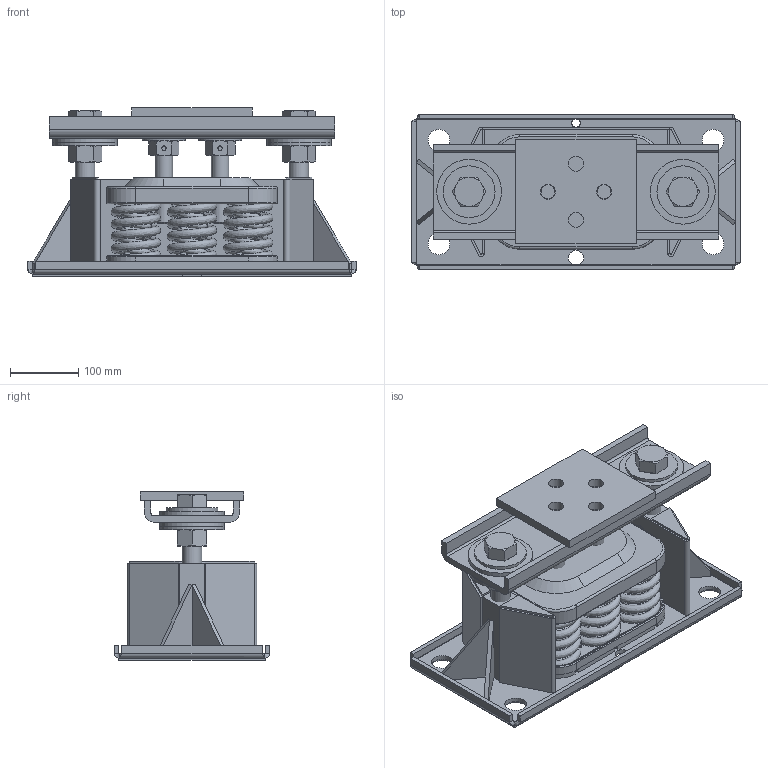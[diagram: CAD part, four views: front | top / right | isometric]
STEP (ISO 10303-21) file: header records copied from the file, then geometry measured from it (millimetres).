
FILE_DESCRIPTION(/* description */ (''),/* implementation_level */ '2;1');
FILE_NAME(/* name */ 'E:\CAD-PROE_SOLIDS\WEBSITE FILES 05.22.13\STEP\SLRSO\SLRSO6.stp',/* time_stamp */ '2014-05-16T10:31:28-04:00',/* author */ ('mleuck'),/* organization */ (''),/* preprocessor_version */ 'ST-DEVELOPER v15.2',/* originating_system */ 'Autodesk Inventor 2014',/* authorisation */ '');
FILE_SCHEMA (('AUTOMOTIVE_DESIGN { 1 0 10303 214 3 1 1 }'));
Length unit declared in the file: inch
Products named in the file (31): SLRSO-6 STANCHION SQUARE BAR (E-16045-5); SLRSO-6 BASE PLATE (E-16044-3); SLRSO-6 GUSSET PLATE (E-16044-3); SLRSO-6 STANCHION BACK (E-16044-3); SLRSO-6 STANCHION SIDE (E-16044-3); SLRSO-6 PART A (E-16044-3); SLRSO-6 PART B (E-16044-3); SLRSO-6 PART B (E-16044-3)_MIR; SLRSO-6 BASE ASSEMBLY (E-16045-5); SLRSO-6 GROMMET (D-5298-5); SLRSO-6 LOWER RESTRAINING WASHER (D-5298-5); SLRSO-6 UPPER RESTRAINING WASHER (D-5298-5); SLRSO-6 TOP CHANNEL (D-5297-2); SLRSO-6 TOP CHANNEL BOLTING PLATE (D-5297-2); SLRSO-6 TOP CHANNEL LOADING PIPE (D-5297-2); SLRSO-6 TOP CHANNEL THRUST WASHER (D-5297-2); SLRSO-6 TOP CHANNEL ASSEMBLY (D-5297-2); ANSI_ASME B18.2.1 - 1 1_8-7 UNC - 4.5(2); ANSI B18.2.2 - 1 1_8 - 7(2); SLRSO-6 SPRING TOP PLATE (D-4199-4); SLRSO-6 BASE PLATE (C-8047-4); SLRSO-6 SPRING BASE PLATE PAD (C-8048-2); SLRSO-6 SPRING CASTING SET (C-8047-4, D-4199-4); SLRSO-6 ADJUSTMENT STUD (D-5298-5); ANSI B18.2.2 - 1 - 8(2); SLRSO-6 ADJUSTMENT BOLT PIN (D-5298-5); SLRSO-6 ADJUSTMENT BOLT ASSEMBLY (D-5298-5); SLRSO-6 BASE PAD (C-9695-3); SPRING C-1350 FH (YELLOW); SPRING Z-1035 FH (GREEN); SLRSO-6 WOS (D-5298-5)
Bounding box: 482.6 x 228.6 x 247.65 mm (x, y, z)
Volume: 5683635.6 mm3; surface area: 2012323.5 mm2
Topology: 52 solids, 52 shells, 789 faces, 1786 edges, 1114 vertices
Faces by surface type: plane 431, cylinder 208, cone 80, bspline 48, torus 22
Full cylindrical faces by diameter (mm): 6.35 x8, 12.7 x1, 19.05 x8, 21.971 x8, 22.225 x3, 24.638 x4, 25.4 x8, 26.987 x4, 28.575 x8, 29.185 x2, 31.75 x4, 33.337 x4, 34.925 x4, 35.052 x2, 42.164 x2, 42.875 x2, 50.8 x2, 57.15 x4, 63.5 x2, 76.2 x2, 95.25 x6
Entity records: 21499 total; most frequent: CARTESIAN_POINT 7634, DIRECTION 2926, ORIENTED_EDGE 2542, EDGE_CURVE 1271, AXIS2_PLACEMENT_3D 1118, VERTEX_POINT 825, EDGE_LOOP 760, LINE 690
